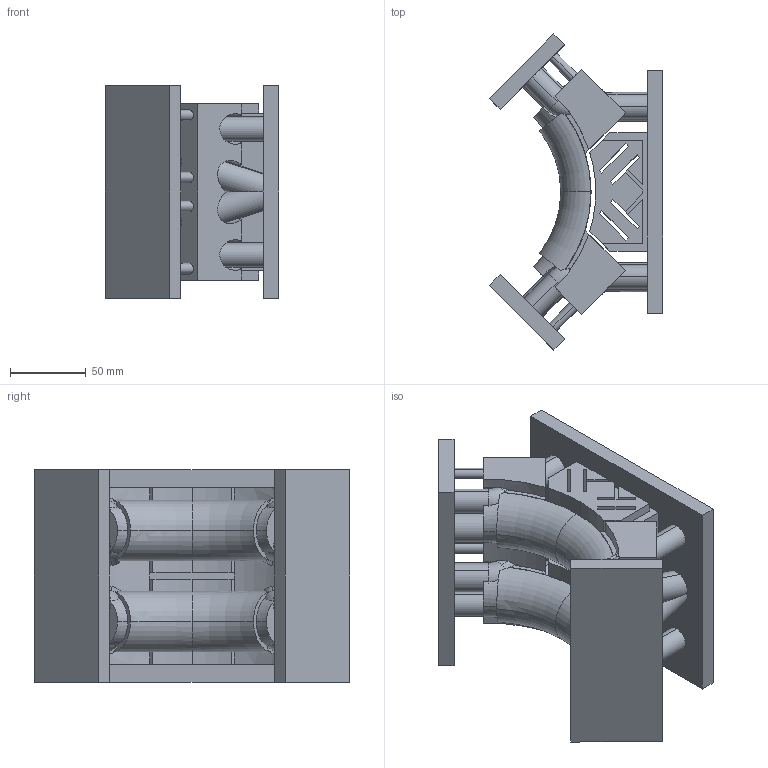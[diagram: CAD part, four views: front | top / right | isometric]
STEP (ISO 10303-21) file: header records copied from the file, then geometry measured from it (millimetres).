
FILE_DESCRIPTION(('STEP AP214'),'1');
FILE_NAME('C:/Users/mashimo/Documents/円弧動エンジン/ボア4.4ｃｍ/TurboCAD/3D/tmp0.STEP','2023-12-27T10:15:43',(' '),(' '),'Spatial InterOp 3D',' ',' ');
FILE_SCHEMA(('automotive_design'));
Length unit declared in the file: millimetre
Products named in the file (3): 1; 2; 3
Bounding box: 113.94 x 207.89 x 140 mm (x, y, z)
Volume: 1098746.8 mm3; surface area: 249201.4 mm2
Topology: 3 solids, 3 shells, 336 faces, 1046 edges, 684 vertices
Faces by surface type: cylinder 138, plane 134, torus 64
Entity records: 18886 total; most frequent: CARTESIAN_POINT 6743, ORIENTED_EDGE 2076, DIRECTION 1916, EDGE_CURVE 1038, AXIS2_PLACEMENT_3D 727, VERTEX_POINT 684, LINE 462, VECTOR 462
